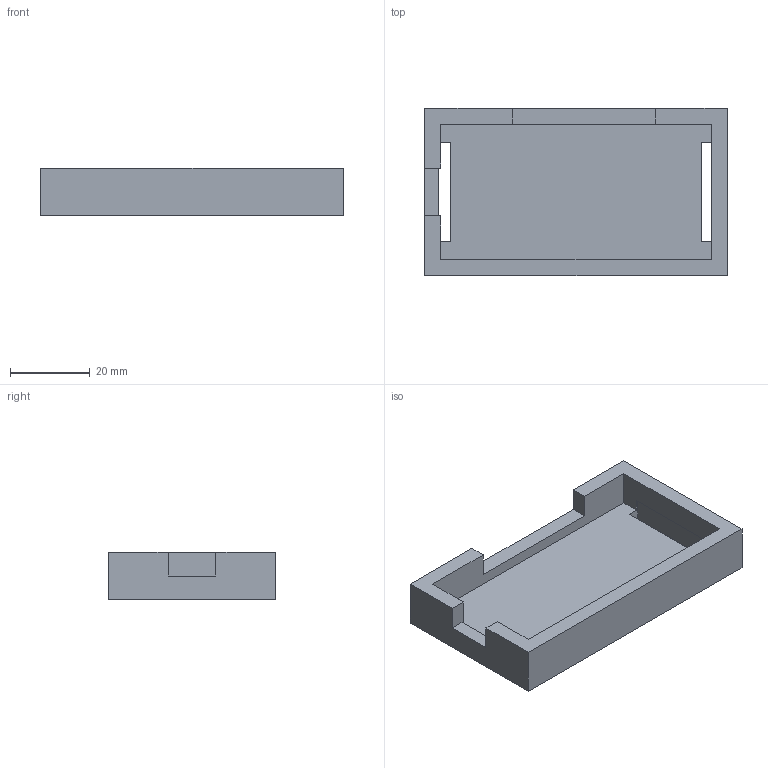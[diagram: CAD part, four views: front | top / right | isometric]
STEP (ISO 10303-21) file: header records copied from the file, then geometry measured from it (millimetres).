
FILE_DESCRIPTION(('Open CASCADE Model'),'2;1');
FILE_NAME('Open CASCADE Shape Model','2026-09-20T05:39:32',('Author'),( 'Open CASCADE'),'Open CASCADE STEP processor 7.9','Open CASCADE 7.9' ,'Unknown');
FILE_SCHEMA(('AUTOMOTIVE_DESIGN { 1 0 10303 214 1 1 1 1 }'));
Length unit declared in the file: millimetre
Products named in the file (1): Open CASCADE STEP translator 7.9 14
Bounding box: 76 x 42 x 12 mm (x, y, z)
Volume: 15819 mm3; surface area: 10652 mm2
Topology: 1 solids, 1 shells, 30 faces, 88 edges, 58 vertices
Faces by surface type: plane 30
Entity records: 2054 total; most frequent: CARTESIAN_POINT 437, DIRECTION 242, LINE 180, VECTOR 180, ORIENTED_EDGE 176, PCURVE 176, DEFINITIONAL_REPRESENTATION 176, EDGE_CURVE 88
